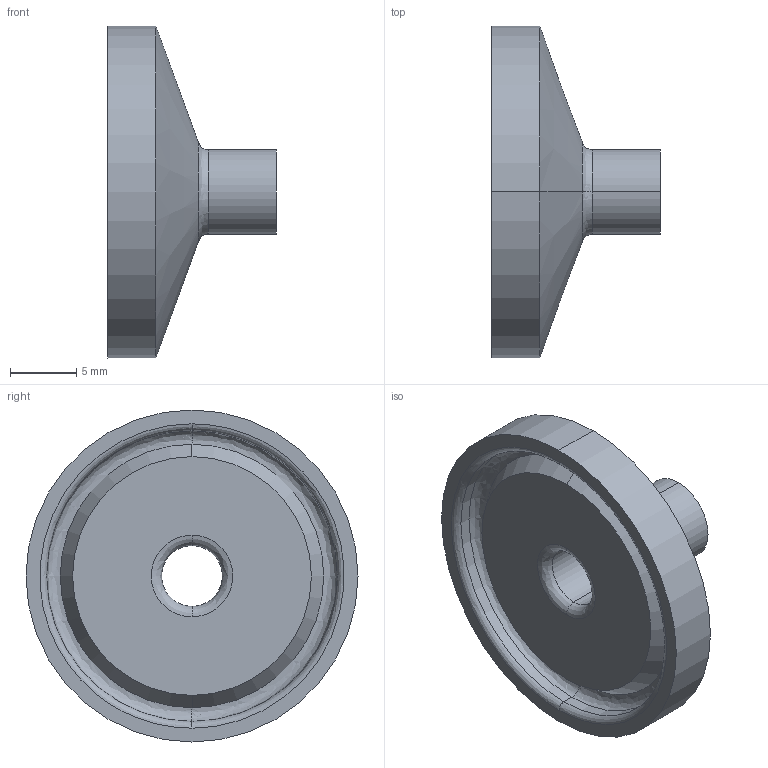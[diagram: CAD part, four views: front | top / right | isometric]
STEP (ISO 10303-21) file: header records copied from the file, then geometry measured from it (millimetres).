
FILE_DESCRIPTION (( 'STEP AP214' ), '1' );
FILE_NAME ('TEG2CS6L.25.STEP', '2016-05-22T11:52:49', ( 'eran' ), ( '' ), 'SwSTEP 2.0', 'SolidWorks 2016', '' );
FILE_SCHEMA (( 'AUTOMOTIVE_DESIGN' ));
Length unit declared in the file: millimetre
Products named in the file (1): TEG2CS6L.25
Bounding box: 12.7 x 24.99 x 24.99 mm (x, y, z)
Volume: 2075.8 mm3; surface area: 1691.7 mm2
Topology: 1 solids, 1 shells, 23 faces, 46 edges, 26 vertices
Faces by surface type: bspline 8, cylinder 8, cone 4, plane 3
Entity records: 724 total; most frequent: CARTESIAN_POINT 228, DIRECTION 104, ORIENTED_EDGE 92, EDGE_CURVE 46, AXIS2_PLACEMENT_3D 46, CIRCLE 30, VERTEX_POINT 26, EDGE_LOOP 26
